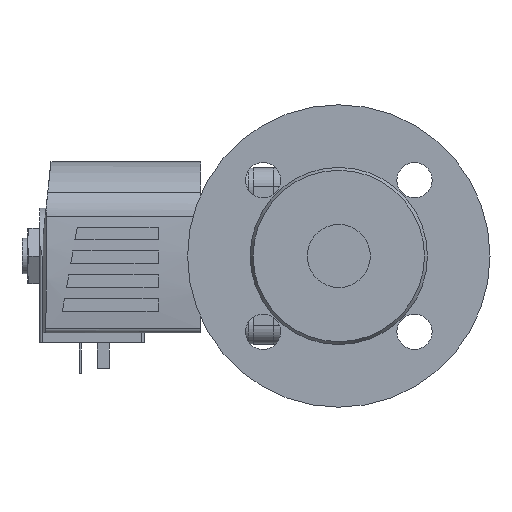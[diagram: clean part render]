
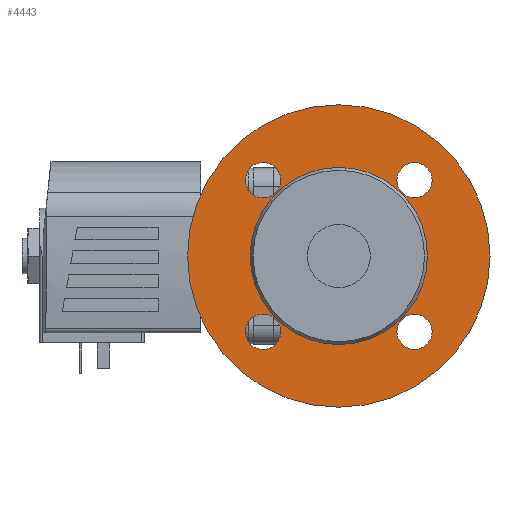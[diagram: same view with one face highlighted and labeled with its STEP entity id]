
A CAD part, left-side view. The second image highlights one B-rep face of the part: STEP entity #4443.
In plain terms, the highlighted planar face has unit normal (-1, 0, 0).
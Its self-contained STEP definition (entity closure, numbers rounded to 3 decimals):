
#878=PLANE('',#5474);
#1141=CIRCLE('',#5472,35.155);
#1143=CIRCLE('',#5475,60.);
#1144=CIRCLE('',#5476,7.);
#1145=CIRCLE('',#5477,7.);
#1146=CIRCLE('',#5478,7.);
#1147=CIRCLE('',#5479,7.);
#1682=ORIENTED_EDGE('',*,*,#2760,.T.);
#1683=ORIENTED_EDGE('',*,*,#2761,.T.);
#1684=ORIENTED_EDGE('',*,*,#2762,.T.);
#1685=ORIENTED_EDGE('',*,*,#2763,.T.);
#1686=ORIENTED_EDGE('',*,*,#2764,.T.);
#1687=ORIENTED_EDGE('',*,*,#2758,.F.);
#2758=EDGE_CURVE('',#3331,#3331,#1141,.T.);
#2760=EDGE_CURVE('',#3333,#3333,#1143,.T.);
#2761=EDGE_CURVE('',#3334,#3334,#1144,.F.);
#2762=EDGE_CURVE('',#3335,#3335,#1145,.F.);
#2763=EDGE_CURVE('',#3336,#3336,#1146,.F.);
#2764=EDGE_CURVE('',#3337,#3337,#1147,.F.);
#3331=VERTEX_POINT('',#7692);
#3333=VERTEX_POINT('',#7697);
#3334=VERTEX_POINT('',#7699);
#3335=VERTEX_POINT('',#7701);
#3336=VERTEX_POINT('',#7703);
#3337=VERTEX_POINT('',#7705);
#3768=EDGE_LOOP('',(#1682));
#3769=EDGE_LOOP('',(#1683));
#3770=EDGE_LOOP('',(#1684));
#3771=EDGE_LOOP('',(#1685));
#3772=EDGE_LOOP('',(#1686));
#3773=EDGE_LOOP('',(#1687));
#4106=FACE_BOUND('',#3768,.T.);
#4107=FACE_BOUND('',#3769,.T.);
#4108=FACE_BOUND('',#3770,.T.);
#4109=FACE_BOUND('',#3771,.T.);
#4110=FACE_BOUND('',#3772,.T.);
#4111=FACE_BOUND('',#3773,.T.);
#4443=ADVANCED_FACE('',(#4106,#4107,#4108,#4109,#4110,#4111),#878,.T.);
#5472=AXIS2_PLACEMENT_3D('',#7691,#6188,#6189);
#5474=AXIS2_PLACEMENT_3D('',#7695,#6192,#6193);
#5475=AXIS2_PLACEMENT_3D('',#7696,#6194,#6195);
#5476=AXIS2_PLACEMENT_3D('',#7698,#6196,#6197);
#5477=AXIS2_PLACEMENT_3D('',#7700,#6198,#6199);
#5478=AXIS2_PLACEMENT_3D('',#7702,#6200,#6201);
#5479=AXIS2_PLACEMENT_3D('',#7704,#6202,#6203);
#6188=DIRECTION('',(-1.,0.,0.));
#6189=DIRECTION('',(0.,0.,1.));
#6192=DIRECTION('',(-1.,0.,0.));
#6193=DIRECTION('',(0.,0.,1.));
#6194=DIRECTION('',(-1.,0.,0.));
#6195=DIRECTION('',(0.,0.,1.));
#6196=DIRECTION('',(-1.,0.,0.));
#6197=DIRECTION('',(0.,0.,1.));
#6198=DIRECTION('',(-1.,0.,0.));
#6199=DIRECTION('',(0.,0.,1.));
#6200=DIRECTION('',(-1.,0.,0.));
#6201=DIRECTION('',(0.,0.,1.));
#6202=DIRECTION('',(-1.,0.,0.));
#6203=DIRECTION('',(0.,0.,1.));
#7691=CARTESIAN_POINT('',(-78.,0.,0.));
#7692=CARTESIAN_POINT('',(-78.,0.,35.155));
#7695=CARTESIAN_POINT('',(-78.,-35.155,0.));
#7696=CARTESIAN_POINT('',(-78.,0.,0.));
#7697=CARTESIAN_POINT('',(-78.,0.,60.));
#7698=CARTESIAN_POINT('',(-78.,30.052,30.052));
#7699=CARTESIAN_POINT('',(-78.,30.052,37.052));
#7700=CARTESIAN_POINT('',(-78.,30.052,-30.052));
#7701=CARTESIAN_POINT('',(-78.,30.052,-23.052));
#7702=CARTESIAN_POINT('',(-78.,-30.052,-30.052));
#7703=CARTESIAN_POINT('',(-78.,-30.052,-23.052));
#7704=CARTESIAN_POINT('',(-78.,-30.052,30.052));
#7705=CARTESIAN_POINT('',(-78.,-30.052,37.052));
